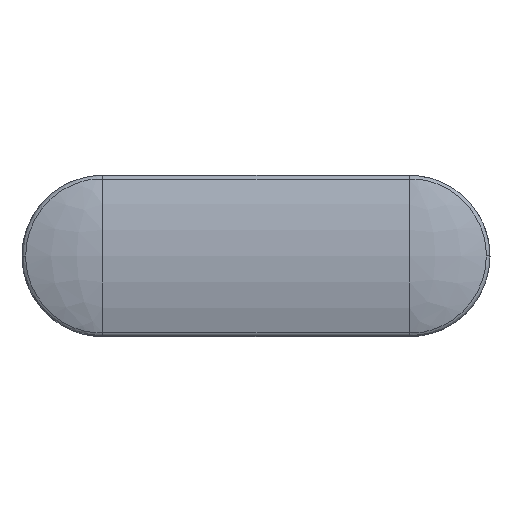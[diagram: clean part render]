
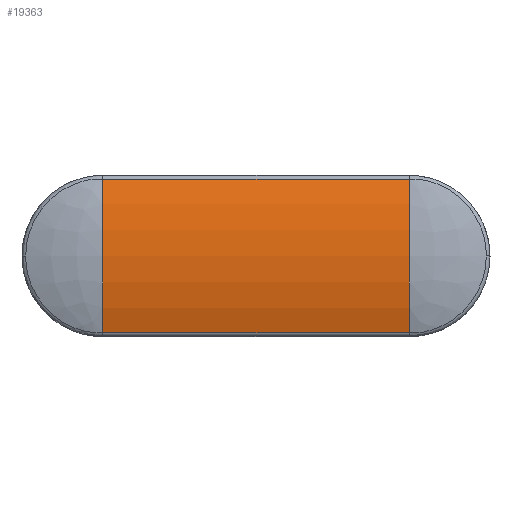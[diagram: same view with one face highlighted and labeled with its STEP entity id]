
A CAD part, top view. The second image highlights one B-rep face of the part: STEP entity #19363.
In plain terms, the highlighted cylindrical face has radius 9.553 mm (diameter 19.106 mm), a partial arc.
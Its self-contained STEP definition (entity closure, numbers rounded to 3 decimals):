
#6349=DIRECTION('',(1.,0.,0.));
#6350=VECTOR('',#6349,11.6);
#6351=CARTESIAN_POINT('',(-5.8,-2.911,
3.546));
#6352=LINE('',#6351,#6350);
#6400=CARTESIAN_POINT('',(-5.8,-2.911,
3.546));
#6493=CARTESIAN_POINT('',(-5.8,2.911,3.546));
#6495=CARTESIAN_POINT('',(-5.8,0.,-5.553));
#6496=DIRECTION('',(1.,0.,0.));
#6497=DIRECTION('',(0.,0.305,0.952));
#6498=AXIS2_PLACEMENT_3D('',#6495,#6496,#6497);
#6500=CARTESIAN_POINT('',(-5.8,0.,-5.553));
#6501=DIRECTION('',(1.,0.,0.));
#6502=DIRECTION('',(0.,0.,1.));
#6503=AXIS2_PLACEMENT_3D('',#6500,#6501,#6502);
#6535=DIRECTION('',(-1.,0.,0.));
#6536=VECTOR('',#6535,11.6);
#6537=CARTESIAN_POINT('',(5.8,2.911,3.546));
#6538=LINE('',#6537,#6536);
#6720=CARTESIAN_POINT('',(5.8,0.,-5.553));
#6721=DIRECTION('',(-1.,0.,0.));
#6722=DIRECTION('',(0.,-0.305,0.952));
#6723=AXIS2_PLACEMENT_3D('',#6720,#6721,#6722);
#6725=CARTESIAN_POINT('',(5.8,0.,-5.553));
#6726=DIRECTION('',(-1.,0.,0.));
#6727=DIRECTION('',(0.,0.,1.));
#6728=AXIS2_PLACEMENT_3D('',#6725,#6726,#6727);
#9523=VERTEX_POINT('',#6400);
#9524=CARTESIAN_POINT('',(5.8,-2.911,3.546));
#9525=VERTEX_POINT('',#9524);
#9529=VERTEX_POINT('',#6493);
#9530=CARTESIAN_POINT('',(-5.8,0.,
4.));
#9531=VERTEX_POINT('',#9530);
#9532=CARTESIAN_POINT('',(5.8,2.911,3.546));
#9533=VERTEX_POINT('',#9532);
#9534=CARTESIAN_POINT('',(5.8,0.,
4.));
#9535=VERTEX_POINT('',#9534);
#19347=CARTESIAN_POINT('',(0.,0.,-5.553));
#19348=DIRECTION('',(-1.,0.,0.));
#19349=DIRECTION('',(0.,0.319,0.948));
#19350=AXIS2_PLACEMENT_3D('',#19347,#19348,#19349);
#19351=CYLINDRICAL_SURFACE('',#19350,9.553);
#19353=ORIENTED_EDGE('',*,*,#19352,.F.);
#19355=ORIENTED_EDGE('',*,*,#19354,.F.);
#19357=ORIENTED_EDGE('',*,*,#19356,.F.);
#19358=ORIENTED_EDGE('',*,*,#18813,.F.);
#19359=ORIENTED_EDGE('',*,*,#19341,.F.);
#19360=ORIENTED_EDGE('',*,*,#19339,.F.);
#19361=EDGE_LOOP('',(#19353,#19355,#19357,#19358,#19359,#19360));
#19362=FACE_OUTER_BOUND('',#19361,.F.);
#19363=ADVANCED_FACE('',(#19362),#19351,.T.);
#6499=CIRCLE('',#6498,9.553);
#6504=CIRCLE('',#6503,9.553);
#6724=CIRCLE('',#6723,9.553);
#6729=CIRCLE('',#6728,9.553);
#18813=EDGE_CURVE('',#9523,#9525,#6352,.T.);
#19339=EDGE_CURVE('',#9529,#9531,#6499,.T.);
#19341=EDGE_CURVE('',#9531,#9523,#6504,.T.);
#19352=EDGE_CURVE('',#9533,#9529,#6538,.T.);
#19354=EDGE_CURVE('',#9535,#9533,#6729,.T.);
#19356=EDGE_CURVE('',#9525,#9535,#6724,.T.);
